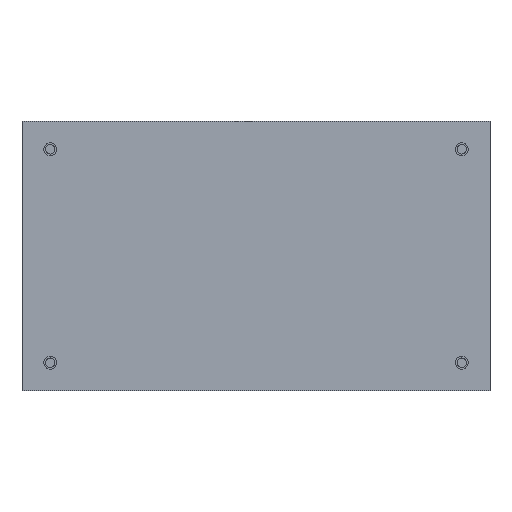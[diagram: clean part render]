
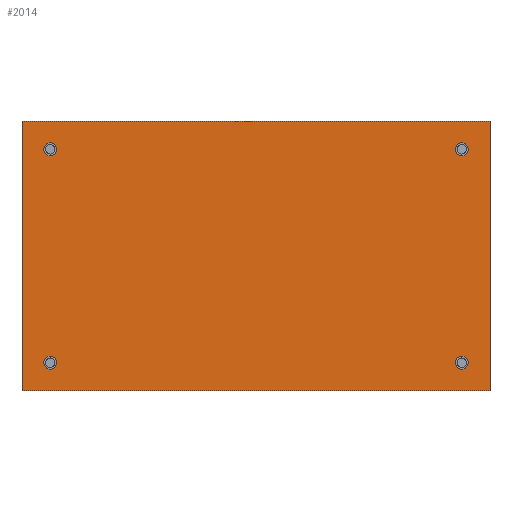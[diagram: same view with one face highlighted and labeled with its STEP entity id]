
A CAD part, top view. The second image highlights one B-rep face of the part: STEP entity #2014.
In plain terms, the highlighted planar face has unit normal (0, 0, 1).
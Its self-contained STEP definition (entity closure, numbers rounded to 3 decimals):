
#1825 = VERTEX_POINT('',#1826);
#1826 = CARTESIAN_POINT('',(-0.4,-0.4,42.8));
#1833 = PLANE('',#1834);
#1834 = AXIS2_PLACEMENT_3D('',#1835,#1836,#1837);
#1835 = CARTESIAN_POINT('',(-0.4,-0.4,40.4));
#1836 = DIRECTION('',(1.,0.,-0.));
#1837 = DIRECTION('',(0.,0.,1.));
#1845 = PLANE('',#1846);
#1846 = AXIS2_PLACEMENT_3D('',#1847,#1848,#1849);
#1847 = CARTESIAN_POINT('',(-0.4,-0.4,40.4));
#1848 = DIRECTION('',(-0.,1.,0.));
#1849 = DIRECTION('',(0.,0.,1.));
#1886 = VERTEX_POINT('',#1887);
#1887 = CARTESIAN_POINT('',(-0.4,70.4,42.8));
#1901 = PLANE('',#1902);
#1902 = AXIS2_PLACEMENT_3D('',#1903,#1904,#1905);
#1903 = CARTESIAN_POINT('',(-0.4,70.4,40.4));
#1904 = DIRECTION('',(-0.,1.,0.));
#1905 = DIRECTION('',(0.,0.,1.));
#1913 = EDGE_CURVE('',#1825,#1886,#1914,.T.);
#1914 = SURFACE_CURVE('',#1915,(#1919,#1926),.PCURVE_S1.);
#1915 = LINE('',#1916,#1917);
#1916 = CARTESIAN_POINT('',(-0.4,-0.4,42.8));
#1917 = VECTOR('',#1918,1.);
#1918 = DIRECTION('',(-0.,1.,0.));
#1919 = PCURVE('',#1833,#1920);
#1920 = DEFINITIONAL_REPRESENTATION('',(#1921),#1925);
#1921 = LINE('',#1922,#1923);
#1922 = CARTESIAN_POINT('',(2.4,0.));
#1923 = VECTOR('',#1924,1.);
#1924 = DIRECTION('',(0.,-1.));
#1925 = ( GEOMETRIC_REPRESENTATION_CONTEXT(2) 
PARAMETRIC_REPRESENTATION_CONTEXT() REPRESENTATION_CONTEXT('2D SPACE',''
  ) );
#1926 = PCURVE('',#1927,#1932);
#1927 = PLANE('',#1928);
#1928 = AXIS2_PLACEMENT_3D('',#1929,#1930,#1931);
#1929 = CARTESIAN_POINT('',(-0.4,-0.4,42.8));
#1930 = DIRECTION('',(0.,0.,1.));
#1931 = DIRECTION('',(1.,0.,-0.));
#1932 = DEFINITIONAL_REPRESENTATION('',(#1933),#1937);
#1933 = LINE('',#1934,#1935);
#1934 = CARTESIAN_POINT('',(0.,0.));
#1935 = VECTOR('',#1936,1.);
#1936 = DIRECTION('',(0.,1.));
#1937 = ( GEOMETRIC_REPRESENTATION_CONTEXT(2) 
PARAMETRIC_REPRESENTATION_CONTEXT() REPRESENTATION_CONTEXT('2D SPACE',''
  ) );
#1966 = EDGE_CURVE('',#1825,#1967,#1969,.T.);
#1967 = VERTEX_POINT('',#1968);
#1968 = CARTESIAN_POINT('',(122.4,-0.4,42.8));
#1969 = SURFACE_CURVE('',#1970,(#1974,#1981),.PCURVE_S1.);
#1970 = LINE('',#1971,#1972);
#1971 = CARTESIAN_POINT('',(-0.4,-0.4,42.8));
#1972 = VECTOR('',#1973,1.);
#1973 = DIRECTION('',(1.,0.,-0.));
#1974 = PCURVE('',#1845,#1975);
#1975 = DEFINITIONAL_REPRESENTATION('',(#1976),#1980);
#1976 = LINE('',#1977,#1978);
#1977 = CARTESIAN_POINT('',(2.4,0.));
#1978 = VECTOR('',#1979,1.);
#1979 = DIRECTION('',(0.,1.));
#1980 = ( GEOMETRIC_REPRESENTATION_CONTEXT(2) 
PARAMETRIC_REPRESENTATION_CONTEXT() REPRESENTATION_CONTEXT('2D SPACE',''
  ) );
#1981 = PCURVE('',#1927,#1982);
#1982 = DEFINITIONAL_REPRESENTATION('',(#1983),#1987);
#1983 = LINE('',#1984,#1985);
#1984 = CARTESIAN_POINT('',(0.,0.));
#1985 = VECTOR('',#1986,1.);
#1986 = DIRECTION('',(1.,0.));
#1987 = ( GEOMETRIC_REPRESENTATION_CONTEXT(2) 
PARAMETRIC_REPRESENTATION_CONTEXT() REPRESENTATION_CONTEXT('2D SPACE',''
  ) );
#2003 = PLANE('',#2004);
#2004 = AXIS2_PLACEMENT_3D('',#2005,#2006,#2007);
#2005 = CARTESIAN_POINT('',(122.4,-0.4,40.4));
#2006 = DIRECTION('',(1.,0.,-0.));
#2007 = DIRECTION('',(0.,0.,1.));
#2014 = ADVANCED_FACE('',(#2015,#2063,#2094,#2125,#2156),#1927,.T.);
#2015 = FACE_BOUND('',#2016,.T.);
#2016 = EDGE_LOOP('',(#2017,#2018,#2019,#2042));
#2017 = ORIENTED_EDGE('',*,*,#1913,.F.);
#2018 = ORIENTED_EDGE('',*,*,#1966,.T.);
#2019 = ORIENTED_EDGE('',*,*,#2020,.T.);
#2020 = EDGE_CURVE('',#1967,#2021,#2023,.T.);
#2021 = VERTEX_POINT('',#2022);
#2022 = CARTESIAN_POINT('',(122.4,70.4,42.8));
#2023 = SURFACE_CURVE('',#2024,(#2028,#2035),.PCURVE_S1.);
#2024 = LINE('',#2025,#2026);
#2025 = CARTESIAN_POINT('',(122.4,-0.4,42.8));
#2026 = VECTOR('',#2027,1.);
#2027 = DIRECTION('',(-0.,1.,0.));
#2028 = PCURVE('',#1927,#2029);
#2029 = DEFINITIONAL_REPRESENTATION('',(#2030),#2034);
#2030 = LINE('',#2031,#2032);
#2031 = CARTESIAN_POINT('',(122.8,0.));
#2032 = VECTOR('',#2033,1.);
#2033 = DIRECTION('',(0.,1.));
#2034 = ( GEOMETRIC_REPRESENTATION_CONTEXT(2) 
PARAMETRIC_REPRESENTATION_CONTEXT() REPRESENTATION_CONTEXT('2D SPACE',''
  ) );
#2035 = PCURVE('',#2003,#2036);
#2036 = DEFINITIONAL_REPRESENTATION('',(#2037),#2041);
#2037 = LINE('',#2038,#2039);
#2038 = CARTESIAN_POINT('',(2.4,0.));
#2039 = VECTOR('',#2040,1.);
#2040 = DIRECTION('',(0.,-1.));
#2041 = ( GEOMETRIC_REPRESENTATION_CONTEXT(2) 
PARAMETRIC_REPRESENTATION_CONTEXT() REPRESENTATION_CONTEXT('2D SPACE',''
  ) );
#2042 = ORIENTED_EDGE('',*,*,#2043,.F.);
#2043 = EDGE_CURVE('',#1886,#2021,#2044,.T.);
#2044 = SURFACE_CURVE('',#2045,(#2049,#2056),.PCURVE_S1.);
#2045 = LINE('',#2046,#2047);
#2046 = CARTESIAN_POINT('',(-0.4,70.4,42.8));
#2047 = VECTOR('',#2048,1.);
#2048 = DIRECTION('',(1.,0.,-0.));
#2049 = PCURVE('',#1927,#2050);
#2050 = DEFINITIONAL_REPRESENTATION('',(#2051),#2055);
#2051 = LINE('',#2052,#2053);
#2052 = CARTESIAN_POINT('',(0.,70.8));
#2053 = VECTOR('',#2054,1.);
#2054 = DIRECTION('',(1.,0.));
#2055 = ( GEOMETRIC_REPRESENTATION_CONTEXT(2) 
PARAMETRIC_REPRESENTATION_CONTEXT() REPRESENTATION_CONTEXT('2D SPACE',''
  ) );
#2056 = PCURVE('',#1901,#2057);
#2057 = DEFINITIONAL_REPRESENTATION('',(#2058),#2062);
#2058 = LINE('',#2059,#2060);
#2059 = CARTESIAN_POINT('',(2.4,0.));
#2060 = VECTOR('',#2061,1.);
#2061 = DIRECTION('',(0.,1.));
#2062 = ( GEOMETRIC_REPRESENTATION_CONTEXT(2) 
PARAMETRIC_REPRESENTATION_CONTEXT() REPRESENTATION_CONTEXT('2D SPACE',''
  ) );
#2063 = FACE_BOUND('',#2064,.T.);
#2064 = EDGE_LOOP('',(#2065));
#2065 = ORIENTED_EDGE('',*,*,#2066,.F.);
#2066 = EDGE_CURVE('',#2067,#2067,#2069,.T.);
#2067 = VERTEX_POINT('',#2068);
#2068 = CARTESIAN_POINT('',(8.7,7.,42.8));
#2069 = SURFACE_CURVE('',#2070,(#2075,#2082),.PCURVE_S1.);
#2070 = CIRCLE('',#2071,1.7);
#2071 = AXIS2_PLACEMENT_3D('',#2072,#2073,#2074);
#2072 = CARTESIAN_POINT('',(7.,7.,42.8));
#2073 = DIRECTION('',(0.,0.,1.));
#2074 = DIRECTION('',(1.,0.,-0.));
#2075 = PCURVE('',#1927,#2076);
#2076 = DEFINITIONAL_REPRESENTATION('',(#2077),#2081);
#2077 = CIRCLE('',#2078,1.7);
#2078 = AXIS2_PLACEMENT_2D('',#2079,#2080);
#2079 = CARTESIAN_POINT('',(7.4,7.4));
#2080 = DIRECTION('',(1.,0.));
#2081 = ( GEOMETRIC_REPRESENTATION_CONTEXT(2) 
PARAMETRIC_REPRESENTATION_CONTEXT() REPRESENTATION_CONTEXT('2D SPACE',''
  ) );
#2082 = PCURVE('',#2083,#2088);
#2083 = CYLINDRICAL_SURFACE('',#2084,1.7);
#2084 = AXIS2_PLACEMENT_3D('',#2085,#2086,#2087);
#2085 = CARTESIAN_POINT('',(7.,7.,40.));
#2086 = DIRECTION('',(0.,0.,1.));
#2087 = DIRECTION('',(1.,0.,-0.));
#2088 = DEFINITIONAL_REPRESENTATION('',(#2089),#2093);
#2089 = LINE('',#2090,#2091);
#2090 = CARTESIAN_POINT('',(0.,2.8));
#2091 = VECTOR('',#2092,1.);
#2092 = DIRECTION('',(1.,0.));
#2093 = ( GEOMETRIC_REPRESENTATION_CONTEXT(2) 
PARAMETRIC_REPRESENTATION_CONTEXT() REPRESENTATION_CONTEXT('2D SPACE',''
  ) );
#2094 = FACE_BOUND('',#2095,.T.);
#2095 = EDGE_LOOP('',(#2096));
#2096 = ORIENTED_EDGE('',*,*,#2097,.F.);
#2097 = EDGE_CURVE('',#2098,#2098,#2100,.T.);
#2098 = VERTEX_POINT('',#2099);
#2099 = CARTESIAN_POINT('',(116.7,7.,42.8));
#2100 = SURFACE_CURVE('',#2101,(#2106,#2113),.PCURVE_S1.);
#2101 = CIRCLE('',#2102,1.7);
#2102 = AXIS2_PLACEMENT_3D('',#2103,#2104,#2105);
#2103 = CARTESIAN_POINT('',(115.,7.,42.8));
#2104 = DIRECTION('',(0.,0.,1.));
#2105 = DIRECTION('',(1.,0.,-0.));
#2106 = PCURVE('',#1927,#2107);
#2107 = DEFINITIONAL_REPRESENTATION('',(#2108),#2112);
#2108 = CIRCLE('',#2109,1.7);
#2109 = AXIS2_PLACEMENT_2D('',#2110,#2111);
#2110 = CARTESIAN_POINT('',(115.4,7.4));
#2111 = DIRECTION('',(1.,0.));
#2112 = ( GEOMETRIC_REPRESENTATION_CONTEXT(2) 
PARAMETRIC_REPRESENTATION_CONTEXT() REPRESENTATION_CONTEXT('2D SPACE',''
  ) );
#2113 = PCURVE('',#2114,#2119);
#2114 = CYLINDRICAL_SURFACE('',#2115,1.7);
#2115 = AXIS2_PLACEMENT_3D('',#2116,#2117,#2118);
#2116 = CARTESIAN_POINT('',(115.,7.,40.));
#2117 = DIRECTION('',(0.,0.,1.));
#2118 = DIRECTION('',(1.,0.,-0.));
#2119 = DEFINITIONAL_REPRESENTATION('',(#2120),#2124);
#2120 = LINE('',#2121,#2122);
#2121 = CARTESIAN_POINT('',(0.,2.8));
#2122 = VECTOR('',#2123,1.);
#2123 = DIRECTION('',(1.,0.));
#2124 = ( GEOMETRIC_REPRESENTATION_CONTEXT(2) 
PARAMETRIC_REPRESENTATION_CONTEXT() REPRESENTATION_CONTEXT('2D SPACE',''
  ) );
#2125 = FACE_BOUND('',#2126,.T.);
#2126 = EDGE_LOOP('',(#2127));
#2127 = ORIENTED_EDGE('',*,*,#2128,.F.);
#2128 = EDGE_CURVE('',#2129,#2129,#2131,.T.);
#2129 = VERTEX_POINT('',#2130);
#2130 = CARTESIAN_POINT('',(8.7,63.,42.8));
#2131 = SURFACE_CURVE('',#2132,(#2137,#2144),.PCURVE_S1.);
#2132 = CIRCLE('',#2133,1.7);
#2133 = AXIS2_PLACEMENT_3D('',#2134,#2135,#2136);
#2134 = CARTESIAN_POINT('',(7.,63.,42.8));
#2135 = DIRECTION('',(0.,0.,1.));
#2136 = DIRECTION('',(1.,0.,-0.));
#2137 = PCURVE('',#1927,#2138);
#2138 = DEFINITIONAL_REPRESENTATION('',(#2139),#2143);
#2139 = CIRCLE('',#2140,1.7);
#2140 = AXIS2_PLACEMENT_2D('',#2141,#2142);
#2141 = CARTESIAN_POINT('',(7.4,63.4));
#2142 = DIRECTION('',(1.,0.));
#2143 = ( GEOMETRIC_REPRESENTATION_CONTEXT(2) 
PARAMETRIC_REPRESENTATION_CONTEXT() REPRESENTATION_CONTEXT('2D SPACE',''
  ) );
#2144 = PCURVE('',#2145,#2150);
#2145 = CYLINDRICAL_SURFACE('',#2146,1.7);
#2146 = AXIS2_PLACEMENT_3D('',#2147,#2148,#2149);
#2147 = CARTESIAN_POINT('',(7.,63.,40.));
#2148 = DIRECTION('',(0.,0.,1.));
#2149 = DIRECTION('',(1.,0.,-0.));
#2150 = DEFINITIONAL_REPRESENTATION('',(#2151),#2155);
#2151 = LINE('',#2152,#2153);
#2152 = CARTESIAN_POINT('',(0.,2.8));
#2153 = VECTOR('',#2154,1.);
#2154 = DIRECTION('',(1.,0.));
#2155 = ( GEOMETRIC_REPRESENTATION_CONTEXT(2) 
PARAMETRIC_REPRESENTATION_CONTEXT() REPRESENTATION_CONTEXT('2D SPACE',''
  ) );
#2156 = FACE_BOUND('',#2157,.T.);
#2157 = EDGE_LOOP('',(#2158));
#2158 = ORIENTED_EDGE('',*,*,#2159,.F.);
#2159 = EDGE_CURVE('',#2160,#2160,#2162,.T.);
#2160 = VERTEX_POINT('',#2161);
#2161 = CARTESIAN_POINT('',(116.7,63.,42.8));
#2162 = SURFACE_CURVE('',#2163,(#2168,#2175),.PCURVE_S1.);
#2163 = CIRCLE('',#2164,1.7);
#2164 = AXIS2_PLACEMENT_3D('',#2165,#2166,#2167);
#2165 = CARTESIAN_POINT('',(115.,63.,42.8));
#2166 = DIRECTION('',(0.,0.,1.));
#2167 = DIRECTION('',(1.,0.,-0.));
#2168 = PCURVE('',#1927,#2169);
#2169 = DEFINITIONAL_REPRESENTATION('',(#2170),#2174);
#2170 = CIRCLE('',#2171,1.7);
#2171 = AXIS2_PLACEMENT_2D('',#2172,#2173);
#2172 = CARTESIAN_POINT('',(115.4,63.4));
#2173 = DIRECTION('',(1.,0.));
#2174 = ( GEOMETRIC_REPRESENTATION_CONTEXT(2) 
PARAMETRIC_REPRESENTATION_CONTEXT() REPRESENTATION_CONTEXT('2D SPACE',''
  ) );
#2175 = PCURVE('',#2176,#2181);
#2176 = CYLINDRICAL_SURFACE('',#2177,1.7);
#2177 = AXIS2_PLACEMENT_3D('',#2178,#2179,#2180);
#2178 = CARTESIAN_POINT('',(115.,63.,40.));
#2179 = DIRECTION('',(0.,0.,1.));
#2180 = DIRECTION('',(1.,0.,-0.));
#2181 = DEFINITIONAL_REPRESENTATION('',(#2182),#2186);
#2182 = LINE('',#2183,#2184);
#2183 = CARTESIAN_POINT('',(0.,2.8));
#2184 = VECTOR('',#2185,1.);
#2185 = DIRECTION('',(1.,0.));
#2186 = ( GEOMETRIC_REPRESENTATION_CONTEXT(2) 
PARAMETRIC_REPRESENTATION_CONTEXT() REPRESENTATION_CONTEXT('2D SPACE',''
  ) );
